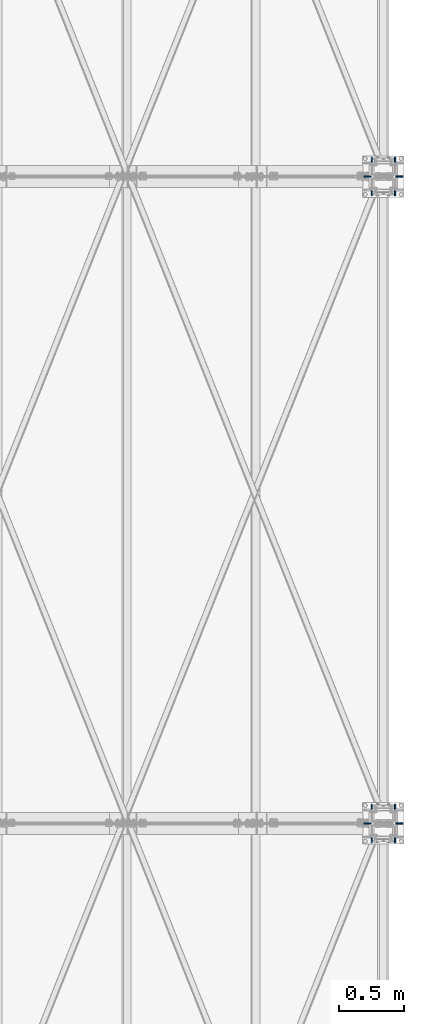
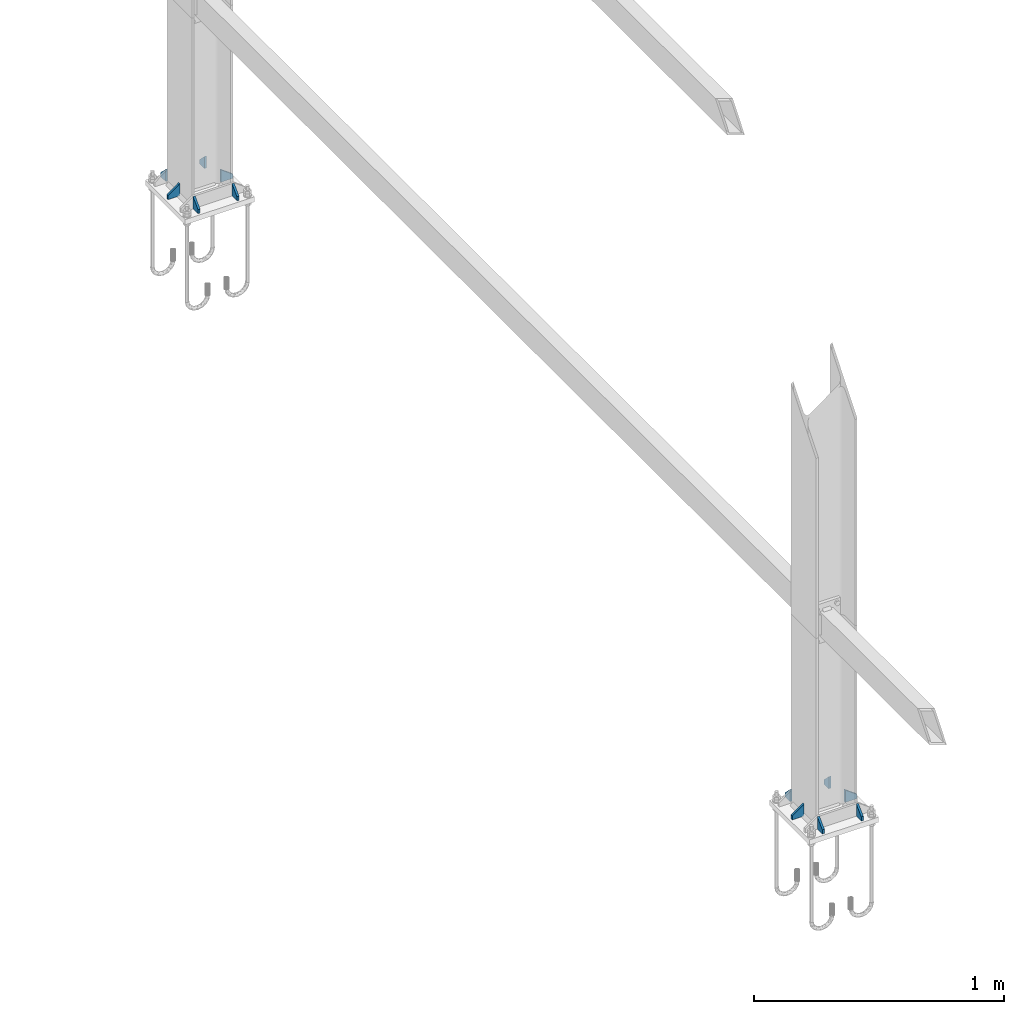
# One storey, part 14 of 251: 12 plates.
"""IFC4 building model written with IfcOpenShell, lengths in metres."""

from ifc_helpers import new_model, si_unit, frame, origin_with_axes, place, context, project, spatial, polyline, outline, extrude, type_object, element, save


model = new_model("IFC4")

# Units and contexts
model_context = context("Model", 3, precision=1e-05, world=origin_with_axes())
ifc_project = project(units=[si_unit("LENGTHUNIT", "METRE"), si_unit("AREAUNIT", "SQUARE_METRE"), si_unit("VOLUMEUNIT", "CUBIC_METRE"), si_unit("MASSUNIT", "GRAM", prefix="KILO"), si_unit("TIMEUNIT", "SECOND"), si_unit("PLANEANGLEUNIT", "RADIAN"), si_unit("SOLIDANGLEUNIT", "STERADIAN"), si_unit("THERMODYNAMICTEMPERATUREUNIT", "DEGREE_CELSIUS")], contexts=[model_context])

# Site, building, storey
placement_1 = place(None, origin_with_axes())
site = spatial("IfcSite", under=ifc_project, at=placement_1, Name="Italia", CompositionType="ELEMENT")
building = spatial("IfcBuilding", under=site, at=placement_1, Name="Deposito", CompositionType="ELEMENT")
storey = spatial("IfcBuildingStorey", under=building, at=placement_1, Name="Storey 0", CompositionType="ELEMENT", Elevation=0.0)

# Plates
plate_type_1 = type_object("IfcPlateType", Name="Collegamenti 0014_-001 0016_-054 0018_-056 0032_-002 0033_-058 0047_-003 0048_-060 0062_-004 0063_-005 0079_-008", PredefinedType="SHEET")
placement_2 = place(placement_1, origin_with_axes())
plate_1_placement = place(placement_2, origin_with_axes())
element("IfcPlate", 1, at=plate_1_placement, inside=storey, type_object=plate_type_1, Name="Collegamenti 0014_-001 0016_-054 0018_-056 0032_-002 0033_-058 0047_-003 0048_-060 0062_-004 0063_-005 0079_-008", context=model_context, shape_type="SweptSolid", body=[
    extrude(outline(polyline([(0.0, 0.0), (0.0, -0.02), (-0.0550003, -0.02), (-0.0550003, 0.04), (0.0, 0.0)])), frame((19.85, 9.995, 0.095), z_axis=(0.0, 1.0, 0.0), x_axis=(-1.0, 0.0, 0.0)), (0.0, 0.0, 1.0), 0.0100002),
])
plate_type_2 = type_object("IfcPlateType", Name="Collegamenti 0014_-001 0016_-054 0018_-056 0032_-002 0033_-058 0047_-003 0048_-060 0062_-004 0063_-005 0079_-008", PredefinedType="SHEET")
plate_2_placement = place(placement_2, origin_with_axes())
element("IfcPlate", 2, at=plate_2_placement, inside=storey, type_object=plate_type_2, Name="Collegamenti 0014_-001 0016_-054 0018_-056 0032_-002 0033_-058 0047_-003 0048_-060 0062_-004 0063_-005 0079_-008", context=model_context, shape_type="SweptSolid", body=[
    extrude(outline(polyline([(0.0, 0.0), (0.0, 0.02), (0.0550003, 0.06), (0.0550003, 0.0), (0.0, 0.0)])), frame((20.15, 9.995, 0.075), z_axis=(0.0, 1.0, 0.0), x_axis=(-1.0, 0.0, 0.0)), (0.0, 0.0, 1.0), 0.0100002),
])
plate_type_3 = type_object("IfcPlateType", Name="Collegamenti 0014_-001 0016_-054 0018_-056 0032_-002 0033_-058 0047_-003 0048_-060 0062_-004 0063_-005 0079_-008", PredefinedType="SHEET")
plate_3_placement = place(placement_2, origin_with_axes())
element("IfcPlate", 3, at=plate_3_placement, inside=storey, type_object=plate_type_3, Name="Collegamenti 0014_-001 0016_-054 0018_-056 0032_-002 0033_-058 0047_-003 0048_-060 0062_-004 0063_-005 0079_-008", context=model_context, shape_type="SweptSolid", body=[
    extrude(outline(polyline([(0.0, 0.0), (0.0, -0.02), (-0.04, -0.02), (-0.04, 0.04), (0.0, 0.0)])), frame((19.905, 10.15, 0.095), z_axis=(1.0, 0.0, 0.0), x_axis=(0.0, 1.0, 0.0)), (0.0, 0.0, 1.0), 0.0100002),
])
plate_type_4 = type_object("IfcPlateType", Name="Collegamenti 0014_-001 0016_-054 0018_-056 0032_-002 0033_-058 0047_-003 0048_-060 0062_-004 0063_-005 0079_-008", PredefinedType="SHEET")
plate_4_placement = place(placement_2, origin_with_axes())
element("IfcPlate", 4, at=plate_4_placement, inside=storey, type_object=plate_type_4, Name="Collegamenti 0014_-001 0016_-054 0018_-056 0032_-002 0033_-058 0047_-003 0048_-060 0062_-004 0063_-005 0079_-008", context=model_context, shape_type="SweptSolid", body=[
    extrude(outline(polyline([(0.0, 0.0), (0.0, 0.02), (0.04, 0.06), (0.04, 0.0), (0.0, 0.0)])), frame((19.905, 9.85, 0.075), z_axis=(1.0, 0.0, 0.0), x_axis=(0.0, 1.0, 0.0)), (0.0, 0.0, 1.0), 0.0100002),
])
plate_type_5 = type_object("IfcPlateType", Name="Collegamenti 0014_-001 0016_-054 0018_-056 0032_-002 0033_-058 0047_-003 0048_-060 0062_-004 0063_-005 0079_-008", PredefinedType="SHEET")
plate_5_placement = place(placement_2, origin_with_axes())
element("IfcPlate", 5, at=plate_5_placement, inside=storey, type_object=plate_type_5, Name="Collegamenti 0014_-001 0016_-054 0018_-056 0032_-002 0033_-058 0047_-003 0048_-060 0062_-004 0063_-005 0079_-008", context=model_context, shape_type="SweptSolid", body=[
    extrude(outline(polyline([(0.0, 0.0), (0.0, 0.02), (0.04, 0.06), (0.04, 0.0), (0.0, 0.0)])), frame((20.095, 10.15, 0.075), z_axis=(-1.0, 0.0, 0.0), x_axis=(0.0, -1.0, 0.0)), (0.0, 0.0, 1.0), 0.0100002),
])
plate_type_6 = type_object("IfcPlateType", Name="Collegamenti 0014_-001 0016_-054 0018_-056 0032_-002 0033_-058 0047_-003 0048_-060 0062_-004 0063_-005 0079_-008", PredefinedType="SHEET")
plate_6_placement = place(placement_2, origin_with_axes())
element("IfcPlate", 6, at=plate_6_placement, inside=storey, type_object=plate_type_6, Name="Collegamenti 0014_-001 0016_-054 0018_-056 0032_-002 0033_-058 0047_-003 0048_-060 0062_-004 0063_-005 0079_-008", context=model_context, shape_type="SweptSolid", body=[
    extrude(outline(polyline([(0.0, 0.0), (0.0, -0.02), (-0.04, -0.02), (-0.04, 0.04), (0.0, 0.0)])), frame((20.095, 9.85, 0.095), z_axis=(-1.0, 0.0, 0.0), x_axis=(0.0, -1.0, 0.0)), (0.0, 0.0, 1.0), 0.0100002),
])
plate_type_7 = type_object("IfcPlateType", Name="Collegamenti 0014_-001 0016_-054 0018_-056 0032_-002 0033_-058 0047_-003 0048_-060 0062_-004 0063_-005 0079_-008", PredefinedType="SHEET")
plate_7_placement = place(placement_2, origin_with_axes())
element("IfcPlate", 7, at=plate_7_placement, inside=storey, type_object=plate_type_7, Name="Collegamenti 0014_-001 0016_-054 0018_-056 0032_-002 0033_-058 0047_-003 0048_-060 0062_-004 0063_-005 0079_-008", context=model_context, shape_type="SweptSolid", body=[
    extrude(outline(polyline([(0.0, 0.0), (0.0, -0.02), (-0.0550003, -0.02), (-0.0550003, 0.04), (0.0, 0.0)])), frame((19.85, 14.995, 0.095), z_axis=(0.0, 1.0, 0.0), x_axis=(-1.0, 0.0, 0.0)), (0.0, 0.0, 1.0), 0.0100002),
])
plate_type_8 = type_object("IfcPlateType", Name="Collegamenti 0014_-001 0016_-054 0018_-056 0032_-002 0033_-058 0047_-003 0048_-060 0062_-004 0063_-005 0079_-008", PredefinedType="SHEET")
plate_8_placement = place(placement_2, origin_with_axes())
element("IfcPlate", 8, at=plate_8_placement, inside=storey, type_object=plate_type_8, Name="Collegamenti 0014_-001 0016_-054 0018_-056 0032_-002 0033_-058 0047_-003 0048_-060 0062_-004 0063_-005 0079_-008", context=model_context, shape_type="SweptSolid", body=[
    extrude(outline(polyline([(0.0, 0.0), (0.0, 0.02), (0.0550003, 0.06), (0.0550003, 0.0), (0.0, 0.0)])), frame((20.15, 14.995, 0.075), z_axis=(0.0, 1.0, 0.0), x_axis=(-1.0, 0.0, 0.0)), (0.0, 0.0, 1.0), 0.0100002),
])
plate_type_9 = type_object("IfcPlateType", Name="Collegamenti 0014_-001 0016_-054 0018_-056 0032_-002 0033_-058 0047_-003 0048_-060 0062_-004 0063_-005 0079_-008", PredefinedType="SHEET")
plate_9_placement = place(placement_2, origin_with_axes())
element("IfcPlate", 9, at=plate_9_placement, inside=storey, type_object=plate_type_9, Name="Collegamenti 0014_-001 0016_-054 0018_-056 0032_-002 0033_-058 0047_-003 0048_-060 0062_-004 0063_-005 0079_-008", context=model_context, shape_type="SweptSolid", body=[
    extrude(outline(polyline([(0.0, 0.0), (0.0, -0.02), (-0.04, -0.02), (-0.04, 0.04), (0.0, 0.0)])), frame((19.905, 15.15, 0.095), z_axis=(1.0, 0.0, 0.0), x_axis=(0.0, 1.0, 0.0)), (0.0, 0.0, 1.0), 0.0100002),
])
plate_type_10 = type_object("IfcPlateType", Name="Collegamenti 0014_-001 0016_-054 0018_-056 0032_-002 0033_-058 0047_-003 0048_-060 0062_-004 0063_-005 0079_-008", PredefinedType="SHEET")
plate_10_placement = place(placement_2, origin_with_axes())
element("IfcPlate", 10, at=plate_10_placement, inside=storey, type_object=plate_type_10, Name="Collegamenti 0014_-001 0016_-054 0018_-056 0032_-002 0033_-058 0047_-003 0048_-060 0062_-004 0063_-005 0079_-008", context=model_context, shape_type="SweptSolid", body=[
    extrude(outline(polyline([(0.0, 0.0), (0.0, 0.02), (0.04, 0.06), (0.04, 0.0), (0.0, 0.0)])), frame((19.905, 14.85, 0.075), z_axis=(1.0, 0.0, 0.0), x_axis=(0.0, 1.0, 0.0)), (0.0, 0.0, 1.0), 0.0100002),
])
plate_type_11 = type_object("IfcPlateType", Name="Collegamenti 0014_-001 0016_-054 0018_-056 0032_-002 0033_-058 0047_-003 0048_-060 0062_-004 0063_-005 0079_-008", PredefinedType="SHEET")
plate_11_placement = place(placement_2, origin_with_axes())
element("IfcPlate", 11, at=plate_11_placement, inside=storey, type_object=plate_type_11, Name="Collegamenti 0014_-001 0016_-054 0018_-056 0032_-002 0033_-058 0047_-003 0048_-060 0062_-004 0063_-005 0079_-008", context=model_context, shape_type="SweptSolid", body=[
    extrude(outline(polyline([(0.0, 0.0), (0.0, 0.02), (0.04, 0.06), (0.04, 0.0), (0.0, 0.0)])), frame((20.095, 15.15, 0.075), z_axis=(-1.0, 0.0, 0.0), x_axis=(0.0, -1.0, 0.0)), (0.0, 0.0, 1.0), 0.0100002),
])
plate_type_12 = type_object("IfcPlateType", Name="Collegamenti 0014_-001 0016_-054 0018_-056 0032_-002 0033_-058 0047_-003 0048_-060 0062_-004 0063_-005 0079_-008", PredefinedType="SHEET")
plate_12_placement = place(placement_2, origin_with_axes())
element("IfcPlate", 12, at=plate_12_placement, inside=storey, type_object=plate_type_12, Name="Collegamenti 0014_-001 0016_-054 0018_-056 0032_-002 0033_-058 0047_-003 0048_-060 0062_-004 0063_-005 0079_-008", context=model_context, shape_type="SweptSolid", body=[
    extrude(outline(polyline([(0.0, 0.0), (0.0, -0.02), (-0.04, -0.02), (-0.04, 0.04), (0.0, 0.0)])), frame((20.095, 14.85, 0.095), z_axis=(-1.0, 0.0, 0.0), x_axis=(0.0, -1.0, 0.0)), (0.0, 0.0, 1.0), 0.0100002),
])

save(model, "model.ifc")
